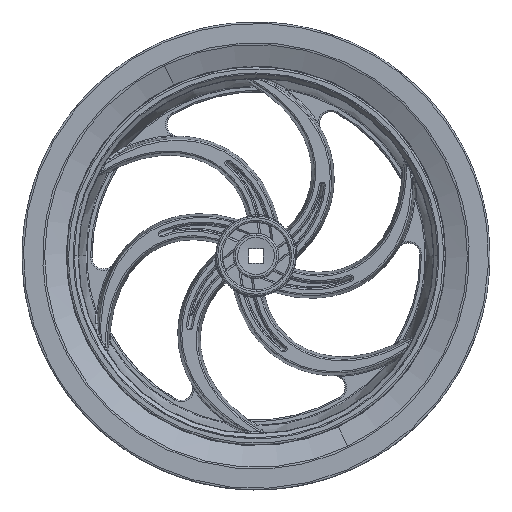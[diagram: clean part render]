
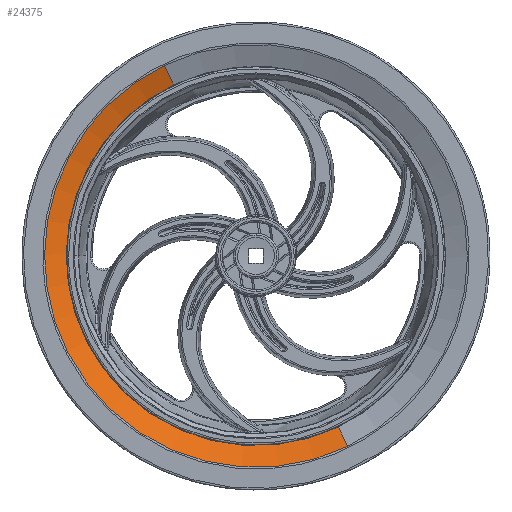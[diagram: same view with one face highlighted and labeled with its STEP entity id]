
A CAD part, top view. The second image highlights one B-rep face of the part: STEP entity #24375.
In plain terms, the highlighted conical face has half-angle 66.975 degrees and reference radius 45.913 mm.
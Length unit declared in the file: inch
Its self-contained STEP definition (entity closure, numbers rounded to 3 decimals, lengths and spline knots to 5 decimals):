
#13966 = EDGE_CURVE ( 'NONE', #14523, #14396, #41448, .T. ) ;
#14023 = VERTEX_POINT ( 'NONE', #41498 ) ;
#14027 = EDGE_CURVE ( 'NONE', #14023, #14030, #41539, .T. ) ;
#14030 = VERTEX_POINT ( 'NONE', #41530 ) ;
#14396 = VERTEX_POINT ( 'NONE', #43789 ) ;
#14523 = VERTEX_POINT ( 'NONE', #44284 ) ;
#16260 = VERTEX_POINT ( 'NONE', #44319 ) ;
#16352 = EDGE_CURVE ( 'NONE', #16260, #16354, #44517, .T. ) ;
#16354 = VERTEX_POINT ( 'NONE', #44502 ) ;
#16365 = EDGE_CURVE ( 'NONE', #14023, #14396, #44490, .T. ) ;
#24375 = ADVANCED_FACE ( 'NONE', ( #58607 ), #58606, .F. ) ;
#24377 = EDGE_LOOP ( 'NONE', ( #24379, #24382, #24421, #24424, #24426, #24429 ) ) ;
#24379 = ORIENTED_EDGE ( 'NONE', *, *, #16352, .F. ) ;
#24382 = ORIENTED_EDGE ( 'NONE', *, *, #24398, .F. ) ;
#24398 = EDGE_CURVE ( 'NONE', #14030, #16260, #58453, .T. ) ;
#24421 = ORIENTED_EDGE ( 'NONE', *, *, #14027, .F. ) ;
#24424 = ORIENTED_EDGE ( 'NONE', *, *, #16365, .T. ) ;
#24426 = ORIENTED_EDGE ( 'NONE', *, *, #13966, .F. ) ;
#24429 = ORIENTED_EDGE ( 'NONE', *, *, #24431, .F. ) ;
#24431 = EDGE_CURVE ( 'NONE', #16354, #14523, #58721, .T. ) ;
#41444 = DIRECTION ( 'NONE',  ( 1., 0., -0.024 ) ) ;
#41445 = DIRECTION ( 'NONE',  ( 0., -1., 0. ) ) ;
#41446 = CARTESIAN_POINT ( 'NONE',  ( 0., 0.43584, 0. ) ) ;
#41447 = AXIS2_PLACEMENT_3D ( 'NONE', #41446, #41445, #41444 ) ;
#41448 = CIRCLE ( 'NONE', #41447, 1.80758 ) ;
#41498 = CARTESIAN_POINT ( 'NONE',  ( 0., 0.35684, 1.62171 ) ) ;
#41530 = CARTESIAN_POINT ( 'NONE',  ( 1.62149, 0.35684, -0.02672 ) ) ;
#41532 = DIRECTION ( 'NONE',  ( 1., 0., 0. ) ) ;
#41535 = DIRECTION ( 'NONE',  ( 0., 1., 0. ) ) ;
#41536 = CARTESIAN_POINT ( 'NONE',  ( 0., 0.35684, 0. ) ) ;
#41538 = AXIS2_PLACEMENT_3D ( 'NONE', #41536, #41535, #41532 ) ;
#41539 = CIRCLE ( 'NONE', #41538, 1.62171 ) ;
#43789 = CARTESIAN_POINT ( 'NONE',  ( 0., 0.43584, 1.80758 ) ) ;
#44284 = CARTESIAN_POINT ( 'NONE',  ( 1.80705, 0.43584, -0.04395 ) ) ;
#44319 = CARTESIAN_POINT ( 'NONE',  ( 0., 0.35684, -1.62171 ) ) ;
#44487 = DIRECTION ( 'NONE',  ( 0., 0.391, 0.92 ) ) ;
#44488 = VECTOR ( 'NONE', #44487, 39.37008 ) ;
#44489 = CARTESIAN_POINT ( 'NONE',  ( 0., 0.43584, 1.80758 ) ) ;
#44490 = LINE ( 'NONE', #44489, #44488 ) ;
#44502 = CARTESIAN_POINT ( 'NONE',  ( 0., 0.43584, -1.80758 ) ) ;
#44503 = DIRECTION ( 'NONE',  ( 0., 0.391, -0.92 ) ) ;
#44504 = VECTOR ( 'NONE', #44503, 39.37008 ) ;
#44506 = CARTESIAN_POINT ( 'NONE',  ( 0., 0.43584, -1.80758 ) ) ;
#44517 = LINE ( 'NONE', #44506, #44504 ) ;
#58453 = CIRCLE ( 'NONE', #58460, 1.62171 ) ;
#58457 = DIRECTION ( 'NONE',  ( 1., 0., 0. ) ) ;
#58458 = DIRECTION ( 'NONE',  ( 0., 1., 0. ) ) ;
#58459 = CARTESIAN_POINT ( 'NONE',  ( 0., 0.35684, 0. ) ) ;
#58460 = AXIS2_PLACEMENT_3D ( 'NONE', #58459, #58458, #58457 ) ;
#58606 = CONICAL_SURFACE ( 'NONE', #58648, 1.80758, 1.169 ) ;
#58607 = FACE_OUTER_BOUND ( 'NONE', #24377, .T. ) ;
#58644 = DIRECTION ( 'NONE',  ( 0., 0., 1. ) ) ;
#58645 = DIRECTION ( 'NONE',  ( 0., 1., 0. ) ) ;
#58646 = CARTESIAN_POINT ( 'NONE',  ( 0., 0.43584, 0. ) ) ;
#58648 = AXIS2_PLACEMENT_3D ( 'NONE', #58646, #58645, #58644 ) ;
#58717 = DIRECTION ( 'NONE',  ( 1., 0., -0.024 ) ) ;
#58718 = DIRECTION ( 'NONE',  ( 0., -1., 0. ) ) ;
#58719 = CARTESIAN_POINT ( 'NONE',  ( 0., 0.43584, 0. ) ) ;
#58720 = AXIS2_PLACEMENT_3D ( 'NONE', #58719, #58718, #58717 ) ;
#58721 = CIRCLE ( 'NONE', #58720, 1.80758 ) ;
